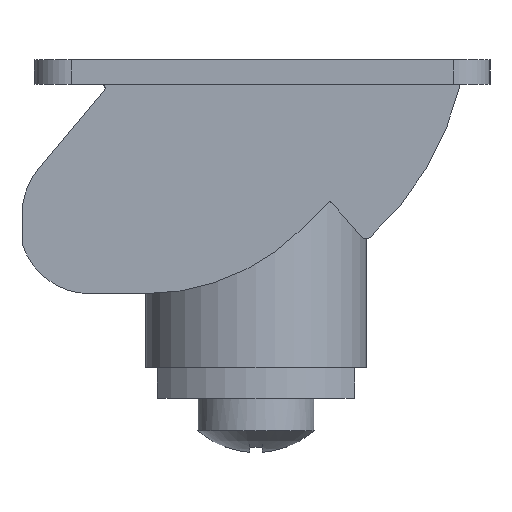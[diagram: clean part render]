
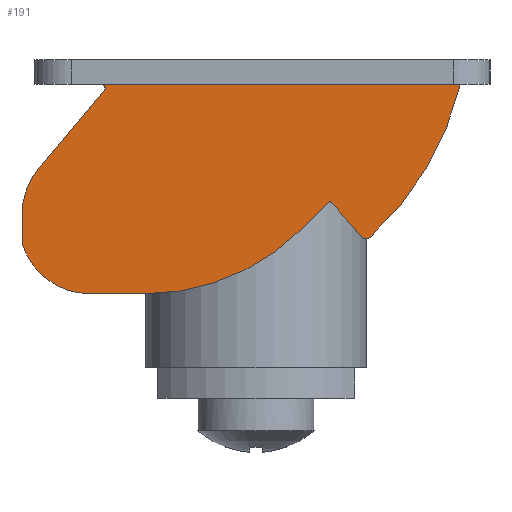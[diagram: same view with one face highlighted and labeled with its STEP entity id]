
A CAD part, left-side view. The second image highlights one B-rep face of the part: STEP entity #191.
In plain terms, the highlighted planar face has unit normal (-1, 0, 0).
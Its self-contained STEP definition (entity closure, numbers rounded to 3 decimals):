
#191 = ADVANCED_FACE( '', ( #305 ), #306, .F. );
#305 = FACE_OUTER_BOUND( '', #488, .T. );
#306 = PLANE( '', #489 );
#488 = EDGE_LOOP( '', ( #814, #815, #816, #817, #818, #819, #820, #821, #822, #823, #824, #825, #826 ) );
#489 = AXIS2_PLACEMENT_3D( '', #827, #828, #829 );
#814 = ORIENTED_EDGE( '', *, *, #1377, .F. );
#815 = ORIENTED_EDGE( '', *, *, #1378, .T. );
#816 = ORIENTED_EDGE( '', *, *, #1379, .T. );
#817 = ORIENTED_EDGE( '', *, *, #1380, .F. );
#818 = ORIENTED_EDGE( '', *, *, #1381, .F. );
#819 = ORIENTED_EDGE( '', *, *, #1382, .F. );
#820 = ORIENTED_EDGE( '', *, *, #1383, .F. );
#821 = ORIENTED_EDGE( '', *, *, #1384, .F. );
#822 = ORIENTED_EDGE( '', *, *, #1385, .F. );
#823 = ORIENTED_EDGE( '', *, *, #1386, .F. );
#824 = ORIENTED_EDGE( '', *, *, #1387, .T. );
#825 = ORIENTED_EDGE( '', *, *, #1388, .F. );
#826 = ORIENTED_EDGE( '', *, *, #1389, .F. );
#827 = CARTESIAN_POINT( '', ( -99., 7.058, 5.589 ) );
#828 = DIRECTION( '', ( 1., 0., 0. ) );
#829 = DIRECTION( '', ( 0., 0., -1. ) );
#1377 = EDGE_CURVE( '', #1652, #1653, #1654, .T. );
#1378 = EDGE_CURVE( '', #1652, #1655, #1656, .T. );
#1379 = EDGE_CURVE( '', #1655, #1657, #1658, .T. );
#1380 = EDGE_CURVE( '', #1659, #1657, #1660, .T. );
#1381 = EDGE_CURVE( '', #1661, #1659, #1662, .T. );
#1382 = EDGE_CURVE( '', #1663, #1661, #1664, .T. );
#1383 = EDGE_CURVE( '', #1665, #1663, #1666, .T. );
#1384 = EDGE_CURVE( '', #1667, #1665, #1668, .T. );
#1385 = EDGE_CURVE( '', #1669, #1667, #1670, .T. );
#1386 = EDGE_CURVE( '', #1671, #1669, #1672, .T. );
#1387 = EDGE_CURVE( '', #1671, #1673, #1674, .T. );
#1388 = EDGE_CURVE( '', #1675, #1673, #1676, .T. );
#1389 = EDGE_CURVE( '', #1653, #1675, #1677, .T. );
#1652 = VERTEX_POINT( '', #2053 );
#1653 = VERTEX_POINT( '', #2054 );
#1654 = CIRCLE( '', #2055, 24.298 );
#1655 = VERTEX_POINT( '', #2056 );
#1656 = LINE( '', #2057, #2058 );
#1657 = VERTEX_POINT( '', #2059 );
#1658 = CIRCLE( '', #2060, 0.3 );
#1659 = VERTEX_POINT( '', #2061 );
#1660 = LINE( '', #2062, #2063 );
#1661 = VERTEX_POINT( '', #2064 );
#1662 = CIRCLE( '', #2065, 5.8 );
#1663 = VERTEX_POINT( '', #2066 );
#1664 = LINE( '', #2067, #2068 );
#1665 = VERTEX_POINT( '', #2069 );
#1666 = CIRCLE( '', #2070, 5.8 );
#1667 = VERTEX_POINT( '', #2071 );
#1668 = LINE( '', #2072, #2073 );
#1669 = VERTEX_POINT( '', #2074 );
#1670 = CIRCLE( '', #2075, 18. );
#1671 = VERTEX_POINT( '', #2076 );
#1672 = LINE( '', #2077, #2078 );
#1673 = VERTEX_POINT( '', #2079 );
#1674 = CIRCLE( '', #2080, 0.2 );
#1675 = VERTEX_POINT( '', #2081 );
#1676 = LINE( '', #2082, #2083 );
#1677 = CIRCLE( '', #2084, 0.5 );
#2053 = CARTESIAN_POINT( '', ( -99., -16.589, 0. ) );
#2054 = CARTESIAN_POINT( '', ( -99., -9.265, -12.411 ) );
#2055 = AXIS2_PLACEMENT_3D( '', #2480, #2481, #2482 );
#2056 = CARTESIAN_POINT( '', ( -99., 12.552, 0. ) );
#2057 = CARTESIAN_POINT( '', ( -99., 15., 0. ) );
#2058 = VECTOR( '', #2483, 1000. );
#2059 = CARTESIAN_POINT( '', ( -99., 12.322, -0.493 ) );
#2060 = AXIS2_PLACEMENT_3D( '', #2484, #2485, #2486 );
#2061 = CARTESIAN_POINT( '', ( -99., 17.643, -6.834 ) );
#2062 = CARTESIAN_POINT( '', ( -99., 17.643, -6.834 ) );
#2063 = VECTOR( '', #2487, 1000. );
#2064 = CARTESIAN_POINT( '', ( -99., 19., -10.562 ) );
#2065 = AXIS2_PLACEMENT_3D( '', #2488, #2489, #2490 );
#2066 = CARTESIAN_POINT( '', ( -99., 19., -12.917 ) );
#2067 = CARTESIAN_POINT( '', ( -99., 19., -12.917 ) );
#2068 = VECTOR( '', #2491, 1000. );
#2069 = CARTESIAN_POINT( '', ( -99., 13.46, -17. ) );
#2070 = AXIS2_PLACEMENT_3D( '', #2492, #2493, #2494 );
#2071 = CARTESIAN_POINT( '', ( -99., 8.987, -17. ) );
#2072 = CARTESIAN_POINT( '', ( -99., 8.987, -17. ) );
#2073 = VECTOR( '', #2495, 1000. );
#2074 = CARTESIAN_POINT( '', ( -99., -3.741, -11.728 ) );
#2075 = AXIS2_PLACEMENT_3D( '', #2496, #2497, #2498 );
#2076 = CARTESIAN_POINT( '', ( -99., -5.865, -9.604 ) );
#2077 = CARTESIAN_POINT( '', ( -99., -5.865, -9.604 ) );
#2078 = VECTOR( '', #2499, 1000. );
#2079 = CARTESIAN_POINT( '', ( -99., -6.157, -9.614 ) );
#2080 = AXIS2_PLACEMENT_3D( '', #2500, #2501, #2502 );
#2081 = CARTESIAN_POINT( '', ( -99., -8.551, -12.368 ) );
#2082 = CARTESIAN_POINT( '', ( -99., -8.551, -12.368 ) );
#2083 = VECTOR( '', #2503, 1000. );
#2084 = AXIS2_PLACEMENT_3D( '', #2504, #2505, #2506 );
#2480 = CARTESIAN_POINT( '', ( -99., 7.058, 5.589 ) );
#2481 = DIRECTION( '', ( 1., 0., 0. ) );
#2482 = DIRECTION( '', ( 0., 0., -1. ) );
#2483 = DIRECTION( '', ( 0., 1., 0. ) );
#2484 = CARTESIAN_POINT( '', ( -99., 12.552, -0.3 ) );
#2485 = DIRECTION( '', ( 1., 0., 0. ) );
#2486 = DIRECTION( '', ( 0., 0., -1. ) );
#2487 = DIRECTION( '', ( 0., -0.643, 0.766 ) );
#2488 = CARTESIAN_POINT( '', ( -99., 13.2, -10.562 ) );
#2489 = DIRECTION( '', ( 1., 0., 0. ) );
#2490 = DIRECTION( '', ( 0., 0., -1. ) );
#2491 = DIRECTION( '', ( 0., 0., 1. ) );
#2492 = CARTESIAN_POINT( '', ( -99., 13.46, -11.2 ) );
#2493 = DIRECTION( '', ( 1., 0., 0. ) );
#2494 = DIRECTION( '', ( 0., 0., -1. ) );
#2495 = DIRECTION( '', ( 0., 1., 0. ) );
#2496 = CARTESIAN_POINT( '', ( -99., 8.987, 1. ) );
#2497 = DIRECTION( '', ( 1., 0., 0. ) );
#2498 = DIRECTION( '', ( 0., 0., -1. ) );
#2499 = DIRECTION( '', ( 0., 0.707, -0.707 ) );
#2500 = CARTESIAN_POINT( '', ( -99., -6.006, -9.745 ) );
#2501 = DIRECTION( '', ( 1., 0., 0. ) );
#2502 = DIRECTION( '', ( 0., 0., -1. ) );
#2503 = DIRECTION( '', ( 0., 0.656, 0.755 ) );
#2504 = CARTESIAN_POINT( '', ( -99., -8.929, -12.04 ) );
#2505 = DIRECTION( '', ( 1., 0., 0. ) );
#2506 = DIRECTION( '', ( 0., 0., -1. ) );
